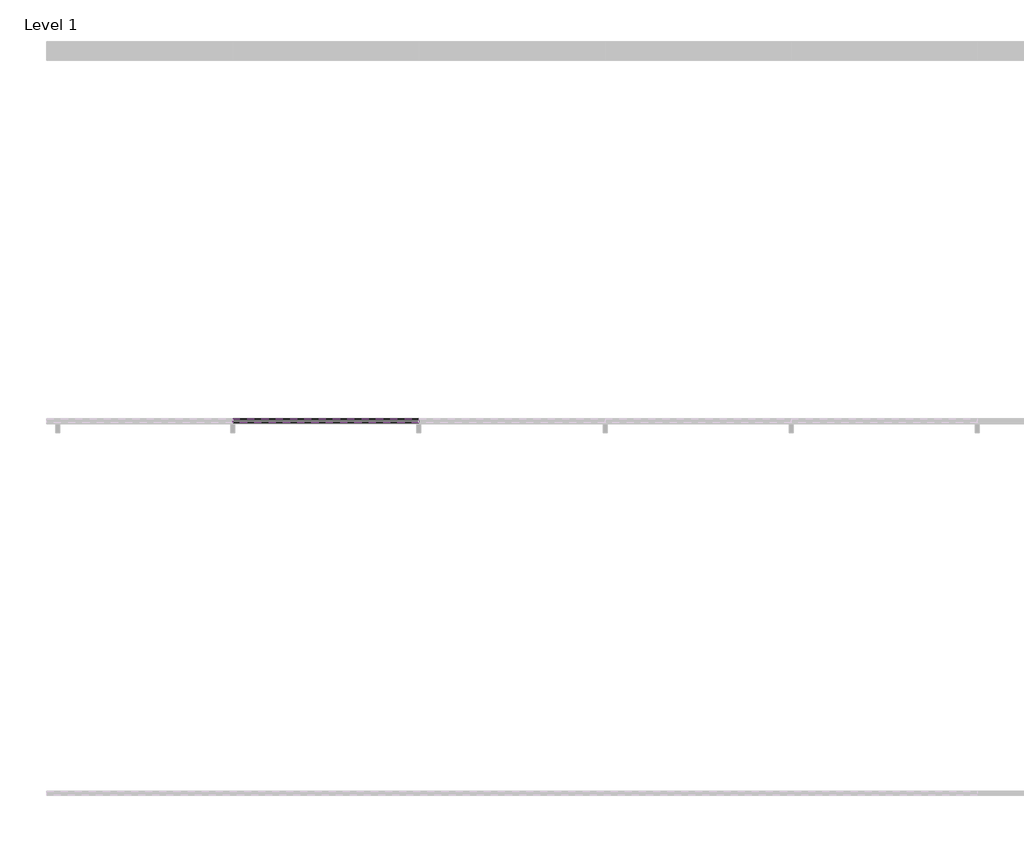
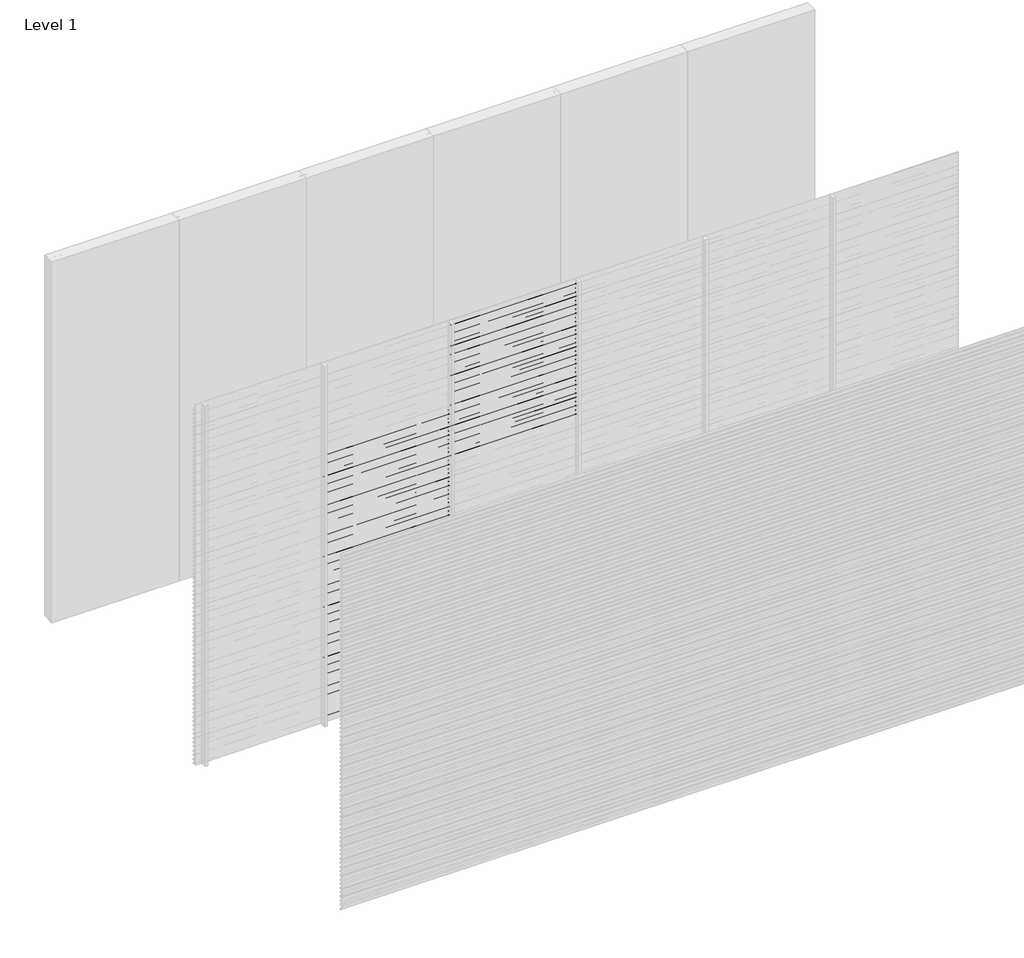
# One storey, part 16 of 25: 97 proxies.
"""IFC4 building model written with IfcOpenShell, lengths in millimetres."""

from ifc_helpers import new_model, si_unit, frame, origin, place, context, project, spatial, polyline, outline, extrude, element, save

model = new_model("IFC4")

# Units and contexts
model_context = context("Model", 3, world=origin())
ifc_project = project(units=[si_unit("LENGTHUNIT", "METRE", prefix="MILLI")], contexts=[model_context])

# Site, building, storey
site = spatial("IfcSite", under=ifc_project)
building = spatial("IfcBuilding", under=site)
storey = spatial("IfcBuildingStorey", under=building, Name="Level 1", Elevation=0.0)

# Proxies
placement = place(None, origin())
element("IfcBuildingElementProxy", 1, Name="Wall Sweeps", at=placement, inside=storey, context=model_context, shape_type="SweptSolid", body=[
    extrude(outline(polyline([(-5995.0, 2275.0), (-5995.0, 2263.942893), (-5976.0, 2248.0), (-5976.0, 2235.0), (-5997.0, 2252.6210923), (-5997.0, 2275.0), (-5995.0, 2275.0)])), frame((1000.0, 0.0, 0.0), z_axis=(1.0, 0.0, 0.0), x_axis=(0.0, 1.0, 0.0)), (0.0, 0.0, 1.0), 1000.0),
])
element("IfcBuildingElementProxy", 2, Name="Wall Sweeps", at=placement, inside=storey, context=model_context, shape_type="SweptSolid", body=[
    extrude(outline(polyline([(-5995.0, 2240.0), (-5995.0, 2228.942893), (-5976.0, 2213.0), (-5976.0, 2200.0), (-5997.0, 2217.6210923), (-5997.0, 2240.0), (-5995.0, 2240.0)])), frame((1000.0, 0.0, 0.0), z_axis=(1.0, 0.0, 0.0), x_axis=(0.0, 1.0, 0.0)), (0.0, 0.0, 1.0), 1000.0),
])
element("IfcBuildingElementProxy", 3, Name="Wall Sweeps", at=placement, inside=storey, context=model_context, shape_type="SweptSolid", body=[
    extrude(outline(polyline([(-5995.0, 2205.0), (-5995.0, 2193.942893), (-5976.0, 2178.0), (-5976.0, 2165.0), (-5997.0, 2182.6210923), (-5997.0, 2205.0), (-5995.0, 2205.0)])), frame((1000.0, 0.0, 0.0), z_axis=(1.0, 0.0, 0.0), x_axis=(0.0, 1.0, 0.0)), (0.0, 0.0, 1.0), 1000.0),
])
element("IfcBuildingElementProxy", 4, Name="Wall Sweeps", at=placement, inside=storey, context=model_context, shape_type="SweptSolid", body=[
    extrude(outline(polyline([(-5995.0, 2170.0), (-5995.0, 2158.942893), (-5976.0, 2143.0), (-5976.0, 2130.0), (-5997.0, 2147.6210923), (-5997.0, 2170.0), (-5995.0, 2170.0)])), frame((1000.0, 0.0, 0.0), z_axis=(1.0, 0.0, 0.0), x_axis=(0.0, 1.0, 0.0)), (0.0, 0.0, 1.0), 1000.0),
])
element("IfcBuildingElementProxy", 5, Name="Wall Sweeps", at=placement, inside=storey, context=model_context, shape_type="SweptSolid", body=[
    extrude(outline(polyline([(-5995.0, 2135.0), (-5995.0, 2123.942893), (-5976.0, 2108.0), (-5976.0, 2095.0), (-5997.0, 2112.6210923), (-5997.0, 2135.0), (-5995.0, 2135.0)])), frame((1000.0, 0.0, 0.0), z_axis=(1.0, 0.0, 0.0), x_axis=(0.0, 1.0, 0.0)), (0.0, 0.0, 1.0), 1000.0),
])
element("IfcBuildingElementProxy", 6, Name="Wall Sweeps", at=placement, inside=storey, context=model_context, shape_type="SweptSolid", body=[
    extrude(outline(polyline([(-5995.0, 2100.0), (-5995.0, 2088.942893), (-5976.0, 2073.0), (-5976.0, 2060.0), (-5997.0, 2077.6210923), (-5997.0, 2100.0), (-5995.0, 2100.0)])), frame((1000.0, 0.0, 0.0), z_axis=(1.0, 0.0, 0.0), x_axis=(0.0, 1.0, 0.0)), (0.0, 0.0, 1.0), 1000.0),
])
element("IfcBuildingElementProxy", 7, Name="Wall Sweeps", at=placement, inside=storey, context=model_context, shape_type="SweptSolid", body=[
    extrude(outline(polyline([(-5995.0, 2065.0), (-5995.0, 2053.942893), (-5976.0, 2038.0), (-5976.0, 2025.0), (-5997.0, 2042.6210923), (-5997.0, 2065.0), (-5995.0, 2065.0)])), frame((1000.0, 0.0, 0.0), z_axis=(1.0, 0.0, 0.0), x_axis=(0.0, 1.0, 0.0)), (0.0, 0.0, 1.0), 1000.0),
])
element("IfcBuildingElementProxy", 8, Name="Wall Sweeps", at=placement, inside=storey, context=model_context, shape_type="SweptSolid", body=[
    extrude(outline(polyline([(-5995.0, 2030.0), (-5995.0, 2018.942893), (-5976.0, 2003.0), (-5976.0, 1990.0), (-5997.0, 2007.6210923), (-5997.0, 2030.0), (-5995.0, 2030.0)])), frame((1000.0, 0.0, 0.0), z_axis=(1.0, 0.0, 0.0), x_axis=(0.0, 1.0, 0.0)), (0.0, 0.0, 1.0), 1000.0),
])
element("IfcBuildingElementProxy", 9, Name="Wall Sweeps", at=placement, inside=storey, context=model_context, shape_type="SweptSolid", body=[
    extrude(outline(polyline([(-5995.0, 1995.0), (-5995.0, 1983.942893), (-5976.0, 1968.0), (-5976.0, 1955.0), (-5997.0, 1972.6210923), (-5997.0, 1995.0), (-5995.0, 1995.0)])), frame((1000.0, 0.0, 0.0), z_axis=(1.0, 0.0, 0.0), x_axis=(0.0, 1.0, 0.0)), (0.0, 0.0, 1.0), 1000.0),
])
element("IfcBuildingElementProxy", 10, Name="Wall Sweeps", at=placement, inside=storey, context=model_context, shape_type="SweptSolid", body=[
    extrude(outline(polyline([(-5995.0, 1960.0), (-5995.0, 1948.942893), (-5976.0, 1933.0), (-5976.0, 1920.0), (-5997.0, 1937.6210923), (-5997.0, 1960.0), (-5995.0, 1960.0)])), frame((1000.0, 0.0, 0.0), z_axis=(1.0, 0.0, 0.0), x_axis=(0.0, 1.0, 0.0)), (0.0, 0.0, 1.0), 1000.0),
])
element("IfcBuildingElementProxy", 11, Name="Wall Sweeps", at=placement, inside=storey, context=model_context, shape_type="SweptSolid", body=[
    extrude(outline(polyline([(-5995.0, 1925.0), (-5995.0, 1913.942893), (-5976.0, 1898.0), (-5976.0, 1885.0), (-5997.0, 1902.6210923), (-5997.0, 1925.0), (-5995.0, 1925.0)])), frame((1000.0, 0.0, 0.0), z_axis=(1.0, 0.0, 0.0), x_axis=(0.0, 1.0, 0.0)), (0.0, 0.0, 1.0), 1000.0),
])
element("IfcBuildingElementProxy", 12, Name="Wall Sweeps", at=placement, inside=storey, context=model_context, shape_type="SweptSolid", body=[
    extrude(outline(polyline([(-5995.0, 1890.0), (-5995.0, 1878.942893), (-5976.0, 1863.0), (-5976.0, 1850.0), (-5997.0, 1867.6210923), (-5997.0, 1890.0), (-5995.0, 1890.0)])), frame((1000.0, 0.0, 0.0), z_axis=(1.0, 0.0, 0.0), x_axis=(0.0, 1.0, 0.0)), (0.0, 0.0, 1.0), 1000.0),
])
element("IfcBuildingElementProxy", 13, Name="Wall Sweeps", at=placement, inside=storey, context=model_context, shape_type="SweptSolid", body=[
    extrude(outline(polyline([(-5995.0, 1855.0), (-5995.0, 1843.942893), (-5976.0, 1828.0), (-5976.0, 1815.0), (-5997.0, 1832.6210923), (-5997.0, 1855.0), (-5995.0, 1855.0)])), frame((1000.0, 0.0, 0.0), z_axis=(1.0, 0.0, 0.0), x_axis=(0.0, 1.0, 0.0)), (0.0, 0.0, 1.0), 1000.0),
])
element("IfcBuildingElementProxy", 14, Name="Wall Sweeps", at=placement, inside=storey, context=model_context, shape_type="SweptSolid", body=[
    extrude(outline(polyline([(-5995.0, 1820.0), (-5995.0, 1808.942893), (-5976.0, 1793.0), (-5976.0, 1780.0), (-5997.0, 1797.6210923), (-5997.0, 1820.0), (-5995.0, 1820.0)])), frame((1000.0, 0.0, 0.0), z_axis=(1.0, 0.0, 0.0), x_axis=(0.0, 1.0, 0.0)), (0.0, 0.0, 1.0), 1000.0),
])
element("IfcBuildingElementProxy", 15, Name="Wall Sweeps", at=placement, inside=storey, context=model_context, shape_type="SweptSolid", body=[
    extrude(outline(polyline([(-5995.0, 1785.0), (-5995.0, 1773.942893), (-5976.0, 1758.0), (-5976.0, 1745.0), (-5997.0, 1762.6210923), (-5997.0, 1785.0), (-5995.0, 1785.0)])), frame((1000.0, 0.0, 0.0), z_axis=(1.0, 0.0, 0.0), x_axis=(0.0, 1.0, 0.0)), (0.0, 0.0, 1.0), 1000.0),
])
element("IfcBuildingElementProxy", 16, Name="Wall Sweeps", at=placement, inside=storey, context=model_context, shape_type="SweptSolid", body=[
    extrude(outline(polyline([(-5995.0, 1750.0), (-5995.0, 1738.942893), (-5976.0, 1723.0), (-5976.0, 1710.0), (-5997.0, 1727.6210923), (-5997.0, 1750.0), (-5995.0, 1750.0)])), frame((1000.0, 0.0, 0.0), z_axis=(1.0, 0.0, 0.0), x_axis=(0.0, 1.0, 0.0)), (0.0, 0.0, 1.0), 1000.0),
])
element("IfcBuildingElementProxy", 17, Name="Wall Sweeps", at=placement, inside=storey, context=model_context, shape_type="SweptSolid", body=[
    extrude(outline(polyline([(-5995.0, 1715.0), (-5995.0, 1703.942893), (-5976.0, 1688.0), (-5976.0, 1675.0), (-5997.0, 1692.6210923), (-5997.0, 1715.0), (-5995.0, 1715.0)])), frame((1000.0, 0.0, 0.0), z_axis=(1.0, 0.0, 0.0), x_axis=(0.0, 1.0, 0.0)), (0.0, 0.0, 1.0), 1000.0),
])
element("IfcBuildingElementProxy", 18, Name="Wall Sweeps", at=placement, inside=storey, context=model_context, shape_type="SweptSolid", body=[
    extrude(outline(polyline([(-5995.0, 1680.0), (-5995.0, 1668.942893), (-5976.0, 1653.0), (-5976.0, 1640.0), (-5997.0, 1657.6210923), (-5997.0, 1680.0), (-5995.0, 1680.0)])), frame((1000.0, 0.0, 0.0), z_axis=(1.0, 0.0, 0.0), x_axis=(0.0, 1.0, 0.0)), (0.0, 0.0, 1.0), 1000.0),
])
element("IfcBuildingElementProxy", 19, Name="Wall Sweeps", at=placement, inside=storey, context=model_context, shape_type="SweptSolid", body=[
    extrude(outline(polyline([(-5995.0, 1645.0), (-5995.0, 1633.942893), (-5976.0, 1618.0), (-5976.0, 1605.0), (-5997.0, 1622.6210923), (-5997.0, 1645.0), (-5995.0, 1645.0)])), frame((1000.0, 0.0, 0.0), z_axis=(1.0, 0.0, 0.0), x_axis=(0.0, 1.0, 0.0)), (0.0, 0.0, 1.0), 1000.0),
])
element("IfcBuildingElementProxy", 20, Name="Wall Sweeps", at=placement, inside=storey, context=model_context, shape_type="SweptSolid", body=[
    extrude(outline(polyline([(-5995.0, 1610.0), (-5995.0, 1598.942893), (-5976.0, 1583.0), (-5976.0, 1570.0), (-5997.0, 1587.6210923), (-5997.0, 1610.0), (-5995.0, 1610.0)])), frame((1000.0, 0.0, 0.0), z_axis=(1.0, 0.0, 0.0), x_axis=(0.0, 1.0, 0.0)), (0.0, 0.0, 1.0), 1000.0),
])
element("IfcBuildingElementProxy", 21, Name="Wall Sweeps", at=placement, inside=storey, context=model_context, shape_type="SweptSolid", body=[
    extrude(outline(polyline([(-5995.0, 1575.0), (-5995.0, 1563.942893), (-5976.0, 1548.0), (-5976.0, 1535.0), (-5997.0, 1552.6210923), (-5997.0, 1575.0), (-5995.0, 1575.0)])), frame((1000.0, 0.0, 0.0), z_axis=(1.0, 0.0, 0.0), x_axis=(0.0, 1.0, 0.0)), (0.0, 0.0, 1.0), 1000.0),
])
element("IfcBuildingElementProxy", 22, Name="Wall Sweeps", at=placement, inside=storey, context=model_context, shape_type="SweptSolid", body=[
    extrude(outline(polyline([(-5995.0, 1540.0), (-5995.0, 1528.942893), (-5976.0, 1513.0), (-5976.0, 1500.0), (-5997.0, 1517.6210923), (-5997.0, 1540.0), (-5995.0, 1540.0)])), frame((1000.0, 0.0, 0.0), z_axis=(1.0, 0.0, 0.0), x_axis=(0.0, 1.0, 0.0)), (0.0, 0.0, 1.0), 1000.0),
])
element("IfcBuildingElementProxy", 23, Name="Wall Sweeps", at=placement, inside=storey, context=model_context, shape_type="SweptSolid", body=[
    extrude(outline(polyline([(-5995.0, 1505.0), (-5995.0, 1493.942893), (-5976.0, 1478.0), (-5976.0, 1465.0), (-5997.0, 1482.6210923), (-5997.0, 1505.0), (-5995.0, 1505.0)])), frame((1000.0, 0.0, 0.0), z_axis=(1.0, 0.0, 0.0), x_axis=(0.0, 1.0, 0.0)), (0.0, 0.0, 1.0), 1000.0),
])
element("IfcBuildingElementProxy", 24, Name="Wall Sweeps", at=placement, inside=storey, context=model_context, shape_type="SweptSolid", body=[
    extrude(outline(polyline([(-5995.0, 1470.0), (-5995.0, 1458.942893), (-5976.0, 1443.0), (-5976.0, 1430.0), (-5997.0, 1447.6210923), (-5997.0, 1470.0), (-5995.0, 1470.0)])), frame((1000.0, 0.0, 0.0), z_axis=(1.0, 0.0, 0.0), x_axis=(0.0, 1.0, 0.0)), (0.0, 0.0, 1.0), 1000.0),
])
element("IfcBuildingElementProxy", 25, Name="Wall Sweeps", at=placement, inside=storey, context=model_context, shape_type="SweptSolid", body=[
    extrude(outline(polyline([(-5995.0, 1435.0), (-5995.0, 1423.942893), (-5976.0, 1408.0), (-5976.0, 1395.0), (-5997.0, 1412.6210923), (-5997.0, 1435.0), (-5995.0, 1435.0)])), frame((1000.0, 0.0, 0.0), z_axis=(1.0, 0.0, 0.0), x_axis=(0.0, 1.0, 0.0)), (0.0, 0.0, 1.0), 1000.0),
])
element("IfcBuildingElementProxy", 26, Name="Wall Sweeps", at=placement, inside=storey, context=model_context, shape_type="SweptSolid", body=[
    extrude(outline(polyline([(-5995.0, 1400.0), (-5995.0, 1388.942893), (-5976.0, 1373.0), (-5976.0, 1360.0), (-5997.0, 1377.6210923), (-5997.0, 1400.0), (-5995.0, 1400.0)])), frame((1000.0, 0.0, 0.0), z_axis=(1.0, 0.0, 0.0), x_axis=(0.0, 1.0, 0.0)), (0.0, 0.0, 1.0), 1000.0),
])
element("IfcBuildingElementProxy", 27, Name="Wall Sweeps", at=placement, inside=storey, context=model_context, shape_type="SweptSolid", body=[
    extrude(outline(polyline([(-5995.0, 1365.0), (-5995.0, 1353.942893), (-5976.0, 1338.0), (-5976.0, 1325.0), (-5997.0, 1342.6210923), (-5997.0, 1365.0), (-5995.0, 1365.0)])), frame((1000.0, 0.0, 0.0), z_axis=(1.0, 0.0, 0.0), x_axis=(0.0, 1.0, 0.0)), (0.0, 0.0, 1.0), 1000.0),
])
element("IfcBuildingElementProxy", 28, Name="Wall Sweeps", at=placement, inside=storey, context=model_context, shape_type="SweptSolid", body=[
    extrude(outline(polyline([(-5995.0, 1330.0), (-5995.0, 1318.942893), (-5976.0, 1303.0), (-5976.0, 1290.0), (-5997.0, 1307.6210923), (-5997.0, 1330.0), (-5995.0, 1330.0)])), frame((1000.0, 0.0, 0.0), z_axis=(1.0, 0.0, 0.0), x_axis=(0.0, 1.0, 0.0)), (0.0, 0.0, 1.0), 1000.0),
])
element("IfcBuildingElementProxy", 29, Name="Wall Sweeps", at=placement, inside=storey, context=model_context, shape_type="SweptSolid", body=[
    extrude(outline(polyline([(-5995.0, 1295.0), (-5995.0, 1283.942893), (-5976.0, 1268.0), (-5976.0, 1255.0), (-5997.0, 1272.6210923), (-5997.0, 1295.0), (-5995.0, 1295.0)])), frame((1000.0, 0.0, 0.0), z_axis=(1.0, 0.0, 0.0), x_axis=(0.0, 1.0, 0.0)), (0.0, 0.0, 1.0), 1000.0),
])
element("IfcBuildingElementProxy", 30, Name="Wall Sweeps", at=placement, inside=storey, context=model_context, shape_type="SweptSolid", body=[
    extrude(outline(polyline([(-5995.0, 1260.0), (-5995.0, 1248.942893), (-5976.0, 1233.0), (-5976.0, 1220.0), (-5997.0, 1237.6210923), (-5997.0, 1260.0), (-5995.0, 1260.0)])), frame((1000.0, 0.0, 0.0), z_axis=(1.0, 0.0, 0.0), x_axis=(0.0, 1.0, 0.0)), (0.0, 0.0, 1.0), 1000.0),
])
element("IfcBuildingElementProxy", 31, Name="Wall Sweeps", at=placement, inside=storey, context=model_context, shape_type="SweptSolid", body=[
    extrude(outline(polyline([(-5995.0, 1225.0), (-5995.0, 1213.942893), (-5976.0, 1198.0), (-5976.0, 1185.0), (-5997.0, 1202.6210923), (-5997.0, 1225.0), (-5995.0, 1225.0)])), frame((1000.0, 0.0, 0.0), z_axis=(1.0, 0.0, 0.0), x_axis=(0.0, 1.0, 0.0)), (0.0, 0.0, 1.0), 1000.0),
])
element("IfcBuildingElementProxy", 32, Name="Wall Sweeps", at=placement, inside=storey, context=model_context, shape_type="SweptSolid", body=[
    extrude(outline(polyline([(-5995.0, 1190.0), (-5995.0, 1178.942893), (-5976.0, 1163.0), (-5976.0, 1150.0), (-5997.0, 1167.6210923), (-5997.0, 1190.0), (-5995.0, 1190.0)])), frame((1000.0, 0.0, 0.0), z_axis=(1.0, 0.0, 0.0), x_axis=(0.0, 1.0, 0.0)), (0.0, 0.0, 1.0), 1000.0),
])
element("IfcBuildingElementProxy", 33, Name="Wall Sweeps", at=placement, inside=storey, context=model_context, shape_type="SweptSolid", body=[
    extrude(outline(polyline([(-5995.0, 1155.0), (-5995.0, 1143.942893), (-5976.0, 1128.0), (-5976.0, 1115.0), (-5997.0, 1132.6210923), (-5997.0, 1155.0), (-5995.0, 1155.0)])), frame((1000.0, 0.0, 0.0), z_axis=(1.0, 0.0, 0.0), x_axis=(0.0, 1.0, 0.0)), (0.0, 0.0, 1.0), 1000.0),
])
element("IfcBuildingElementProxy", 34, Name="Wall Sweeps", at=placement, inside=storey, context=model_context, shape_type="SweptSolid", body=[
    extrude(outline(polyline([(-5995.0, 1120.0), (-5995.0, 1108.942893), (-5976.0, 1093.0), (-5976.0, 1080.0), (-5997.0, 1097.6210923), (-5997.0, 1120.0), (-5995.0, 1120.0)])), frame((1000.0, 0.0, 0.0), z_axis=(1.0, 0.0, 0.0), x_axis=(0.0, 1.0, 0.0)), (0.0, 0.0, 1.0), 1000.0),
])
element("IfcBuildingElementProxy", 35, Name="Wall Sweeps", at=placement, inside=storey, context=model_context, shape_type="SweptSolid", body=[
    extrude(outline(polyline([(-5995.0, 1085.0), (-5995.0, 1073.942893), (-5976.0, 1058.0), (-5976.0, 1045.0), (-5997.0, 1062.6210923), (-5997.0, 1085.0), (-5995.0, 1085.0)])), frame((1000.0, 0.0, 0.0), z_axis=(1.0, 0.0, 0.0), x_axis=(0.0, 1.0, 0.0)), (0.0, 0.0, 1.0), 1000.0),
])
element("IfcBuildingElementProxy", 36, Name="Wall Sweeps", at=placement, inside=storey, context=model_context, shape_type="SweptSolid", body=[
    extrude(outline(polyline([(-5995.0, 1050.0), (-5995.0, 1038.942893), (-5976.0, 1023.0), (-5976.0, 1010.0), (-5997.0, 1027.6210923), (-5997.0, 1050.0), (-5995.0, 1050.0)])), frame((1000.0, 0.0, 0.0), z_axis=(1.0, 0.0, 0.0), x_axis=(0.0, 1.0, 0.0)), (0.0, 0.0, 1.0), 1000.0),
])
element("IfcBuildingElementProxy", 37, Name="Wall Sweeps", at=placement, inside=storey, context=model_context, shape_type="SweptSolid", body=[
    extrude(outline(polyline([(-5995.0, 1015.0), (-5995.0, 1003.942893), (-5976.0, 988.0), (-5976.0, 975.0), (-5997.0, 992.6210923), (-5997.0, 1015.0), (-5995.0, 1015.0)])), frame((1000.0, 0.0, 0.0), z_axis=(1.0, 0.0, 0.0), x_axis=(0.0, 1.0, 0.0)), (0.0, 0.0, 1.0), 1000.0),
])
element("IfcBuildingElementProxy", 38, Name="Wall Sweeps", at=placement, inside=storey, context=model_context, shape_type="SweptSolid", body=[
    extrude(outline(polyline([(-5995.0, 980.0), (-5995.0, 968.942893), (-5976.0, 953.0), (-5976.0, 940.0), (-5997.0, 957.6210923), (-5997.0, 980.0), (-5995.0, 980.0)])), frame((1000.0, 0.0, 0.0), z_axis=(1.0, 0.0, 0.0), x_axis=(0.0, 1.0, 0.0)), (0.0, 0.0, 1.0), 1000.0),
])
element("IfcBuildingElementProxy", 39, Name="Wall Sweeps", at=placement, inside=storey, context=model_context, shape_type="SweptSolid", body=[
    extrude(outline(polyline([(-5995.0, 945.0), (-5995.0, 933.942893), (-5976.0, 918.0), (-5976.0, 905.0), (-5997.0, 922.6210923), (-5997.0, 945.0), (-5995.0, 945.0)])), frame((1000.0, 0.0, 0.0), z_axis=(1.0, 0.0, 0.0), x_axis=(0.0, 1.0, 0.0)), (0.0, 0.0, 1.0), 1000.0),
])
element("IfcBuildingElementProxy", 40, Name="Wall Sweeps", at=placement, inside=storey, context=model_context, shape_type="SweptSolid", body=[
    extrude(outline(polyline([(-5995.0, 910.0), (-5995.0, 898.942893), (-5976.0, 883.0), (-5976.0, 870.0), (-5997.0, 887.6210923), (-5997.0, 910.0), (-5995.0, 910.0)])), frame((1000.0, 0.0, 0.0), z_axis=(1.0, 0.0, 0.0), x_axis=(0.0, 1.0, 0.0)), (0.0, 0.0, 1.0), 1000.0),
])
element("IfcBuildingElementProxy", 41, Name="Wall Sweeps", at=placement, inside=storey, context=model_context, shape_type="SweptSolid", body=[
    extrude(outline(polyline([(-5995.0, 875.0), (-5995.0, 863.942893), (-5976.0, 848.0), (-5976.0, 835.0), (-5997.0, 852.6210923), (-5997.0, 875.0), (-5995.0, 875.0)])), frame((1000.0, 0.0, 0.0), z_axis=(1.0, 0.0, 0.0), x_axis=(0.0, 1.0, 0.0)), (0.0, 0.0, 1.0), 1000.0),
])
element("IfcBuildingElementProxy", 42, Name="Wall Sweeps", at=placement, inside=storey, context=model_context, shape_type="SweptSolid", body=[
    extrude(outline(polyline([(-5995.0, 840.0), (-5995.0, 828.942893), (-5976.0, 813.0), (-5976.0, 800.0), (-5997.0, 817.6210923), (-5997.0, 840.0), (-5995.0, 840.0)])), frame((1000.0, 0.0, 0.0), z_axis=(1.0, 0.0, 0.0), x_axis=(0.0, 1.0, 0.0)), (0.0, 0.0, 1.0), 1000.0),
])
element("IfcBuildingElementProxy", 43, Name="Wall Sweeps", at=placement, inside=storey, context=model_context, shape_type="SweptSolid", body=[
    extrude(outline(polyline([(-5995.0, 805.0), (-5995.0, 793.942893), (-5976.0, 778.0), (-5976.0, 765.0), (-5997.0, 782.6210923), (-5997.0, 805.0), (-5995.0, 805.0)])), frame((1000.0, 0.0, 0.0), z_axis=(1.0, 0.0, 0.0), x_axis=(0.0, 1.0, 0.0)), (0.0, 0.0, 1.0), 1000.0),
])
element("IfcBuildingElementProxy", 44, Name="Wall Sweeps", at=placement, inside=storey, context=model_context, shape_type="SweptSolid", body=[
    extrude(outline(polyline([(-5995.0, 770.0), (-5995.0, 758.942893), (-5976.0, 743.0), (-5976.0, 730.0), (-5997.0, 747.6210923), (-5997.0, 770.0), (-5995.0, 770.0)])), frame((1000.0, 0.0, 0.0), z_axis=(1.0, 0.0, 0.0), x_axis=(0.0, 1.0, 0.0)), (0.0, 0.0, 1.0), 1000.0),
])
element("IfcBuildingElementProxy", 45, Name="Wall Sweeps", at=placement, inside=storey, context=model_context, shape_type="SweptSolid", body=[
    extrude(outline(polyline([(-5995.0, 735.0), (-5995.0, 723.942893), (-5976.0, 708.0), (-5976.0, 695.0), (-5997.0, 712.6210923), (-5997.0, 735.0), (-5995.0, 735.0)])), frame((1000.0, 0.0, 0.0), z_axis=(1.0, 0.0, 0.0), x_axis=(0.0, 1.0, 0.0)), (0.0, 0.0, 1.0), 1000.0),
])
element("IfcBuildingElementProxy", 46, Name="Wall Sweeps", at=placement, inside=storey, context=model_context, shape_type="SweptSolid", body=[
    extrude(outline(polyline([(-5995.0, 700.0), (-5995.0, 688.942893), (-5976.0, 673.0), (-5976.0, 660.0), (-5997.0, 677.6210923), (-5997.0, 700.0), (-5995.0, 700.0)])), frame((1000.0, 0.0, 0.0), z_axis=(1.0, 0.0, 0.0), x_axis=(0.0, 1.0, 0.0)), (0.0, 0.0, 1.0), 1000.0),
])
element("IfcBuildingElementProxy", 47, Name="Wall Sweeps", at=placement, inside=storey, context=model_context, shape_type="SweptSolid", body=[
    extrude(outline(polyline([(-5995.0, 665.0), (-5995.0, 653.942893), (-5976.0, 638.0), (-5976.0, 625.0), (-5997.0, 642.6210923), (-5997.0, 665.0), (-5995.0, 665.0)])), frame((1000.0, 0.0, 0.0), z_axis=(1.0, 0.0, 0.0), x_axis=(0.0, 1.0, 0.0)), (0.0, 0.0, 1.0), 1000.0),
])
element("IfcBuildingElementProxy", 48, Name="Wall Sweeps", at=placement, inside=storey, context=model_context, shape_type="SweptSolid", body=[
    extrude(outline(polyline([(-5995.0, 630.0), (-5995.0, 618.942893), (-5976.0, 603.0), (-5976.0, 590.0), (-5997.0, 607.6210923), (-5997.0, 630.0), (-5995.0, 630.0)])), frame((1000.0, 0.0, 0.0), z_axis=(1.0, 0.0, 0.0), x_axis=(0.0, 1.0, 0.0)), (0.0, 0.0, 1.0), 1000.0),
])
element("IfcBuildingElementProxy", 49, Name="Wall Sweeps", at=placement, inside=storey, context=model_context, shape_type="SweptSolid", body=[
    extrude(outline(polyline([(-5995.0, 595.0), (-5995.0, 583.942893), (-5976.0, 568.0), (-5976.0, 555.0), (-5997.0, 572.6210923), (-5997.0, 595.0), (-5995.0, 595.0)])), frame((1000.0, 0.0, 0.0), z_axis=(1.0, 0.0, 0.0), x_axis=(0.0, 1.0, 0.0)), (0.0, 0.0, 1.0), 1000.0),
])
element("IfcBuildingElementProxy", 50, Name="Wall Sweeps", at=placement, inside=storey, context=model_context, shape_type="SweptSolid", body=[
    extrude(outline(polyline([(-5995.0, 560.0), (-5995.0, 548.942893), (-5976.0, 533.0), (-5976.0, 520.0), (-5997.0, 537.6210923), (-5997.0, 560.0), (-5995.0, 560.0)])), frame((1000.0, 0.0, 0.0), z_axis=(1.0, 0.0, 0.0), x_axis=(0.0, 1.0, 0.0)), (0.0, 0.0, 1.0), 1000.0),
])
element("IfcBuildingElementProxy", 51, Name="Wall Sweeps", at=placement, inside=storey, context=model_context, shape_type="SweptSolid", body=[
    extrude(outline(polyline([(-5995.0, 525.0), (-5995.0, 513.942893), (-5976.0, 498.0), (-5976.0, 485.0), (-5997.0, 502.6210923), (-5997.0, 525.0), (-5995.0, 525.0)])), frame((1000.0, 0.0, 0.0), z_axis=(1.0, 0.0, 0.0), x_axis=(0.0, 1.0, 0.0)), (0.0, 0.0, 1.0), 1000.0),
])
element("IfcBuildingElementProxy", 52, Name="Wall Sweeps", at=placement, inside=storey, context=model_context, shape_type="SweptSolid", body=[
    extrude(outline(polyline([(-5995.0, 490.0), (-5995.0, 478.942893), (-5976.0, 463.0), (-5976.0, 450.0), (-5997.0, 467.6210923), (-5997.0, 490.0), (-5995.0, 490.0)])), frame((1000.0, 0.0, 0.0), z_axis=(1.0, 0.0, 0.0), x_axis=(0.0, 1.0, 0.0)), (0.0, 0.0, 1.0), 1000.0),
])
element("IfcBuildingElementProxy", 53, Name="Wall Sweeps", at=placement, inside=storey, context=model_context, shape_type="SweptSolid", body=[
    extrude(outline(polyline([(-5995.0, 455.0), (-5995.0, 443.942893), (-5976.0, 428.0), (-5976.0, 415.0), (-5997.0, 432.6210923), (-5997.0, 455.0), (-5995.0, 455.0)])), frame((1000.0, 0.0, 0.0), z_axis=(1.0, 0.0, 0.0), x_axis=(0.0, 1.0, 0.0)), (0.0, 0.0, 1.0), 1000.0),
])
element("IfcBuildingElementProxy", 54, Name="Wall Sweeps", at=placement, inside=storey, context=model_context, shape_type="SweptSolid", body=[
    extrude(outline(polyline([(-5995.0, 420.0), (-5995.0, 408.942893), (-5976.0, 393.0), (-5976.0, 380.0), (-5997.0, 397.6210923), (-5997.0, 420.0), (-5995.0, 420.0)])), frame((1000.0, 0.0, 0.0), z_axis=(1.0, 0.0, 0.0), x_axis=(0.0, 1.0, 0.0)), (0.0, 0.0, 1.0), 1000.0),
])
element("IfcBuildingElementProxy", 55, Name="Wall Sweeps", at=placement, inside=storey, context=model_context, shape_type="SweptSolid", body=[
    extrude(outline(polyline([(-5995.0, 385.0), (-5995.0, 373.942893), (-5976.0, 358.0), (-5976.0, 345.0), (-5997.0, 362.6210923), (-5997.0, 385.0), (-5995.0, 385.0)])), frame((1000.0, 0.0, 0.0), z_axis=(1.0, 0.0, 0.0), x_axis=(0.0, 1.0, 0.0)), (0.0, 0.0, 1.0), 1000.0),
])
element("IfcBuildingElementProxy", 56, Name="Wall Sweeps", at=placement, inside=storey, context=model_context, shape_type="SweptSolid", body=[
    extrude(outline(polyline([(-5995.0, 350.0), (-5995.0, 338.942893), (-5976.0, 323.0), (-5976.0, 310.0), (-5997.0, 327.6210923), (-5997.0, 350.0), (-5995.0, 350.0)])), frame((1000.0, 0.0, 0.0), z_axis=(1.0, 0.0, 0.0), x_axis=(0.0, 1.0, 0.0)), (0.0, 0.0, 1.0), 1000.0),
])
element("IfcBuildingElementProxy", 57, Name="Wall Sweeps", at=placement, inside=storey, context=model_context, shape_type="SweptSolid", body=[
    extrude(outline(polyline([(-5995.0, 315.0), (-5995.0, 303.942893), (-5976.0, 288.0), (-5976.0, 275.0), (-5997.0, 292.6210923), (-5997.0, 315.0), (-5995.0, 315.0)])), frame((1000.0, 0.0, 0.0), z_axis=(1.0, 0.0, 0.0), x_axis=(0.0, 1.0, 0.0)), (0.0, 0.0, 1.0), 1000.0),
])
element("IfcBuildingElementProxy", 58, Name="Wall Sweeps", at=placement, inside=storey, context=model_context, shape_type="SweptSolid", body=[
    extrude(outline(polyline([(-5995.0, 280.0), (-5995.0, 268.942893), (-5976.0, 253.0), (-5976.0, 240.0), (-5997.0, 257.6210923), (-5997.0, 280.0), (-5995.0, 280.0)])), frame((1000.0, 0.0, 0.0), z_axis=(1.0, 0.0, 0.0), x_axis=(0.0, 1.0, 0.0)), (0.0, 0.0, 1.0), 1000.0),
])
element("IfcBuildingElementProxy", 59, Name="Wall Sweeps", at=placement, inside=storey, context=model_context, shape_type="SweptSolid", body=[
    extrude(outline(polyline([(-5995.0, 245.0), (-5995.0, 233.942893), (-5976.0, 218.0), (-5976.0, 205.0), (-5997.0, 222.6210923), (-5997.0, 245.0), (-5995.0, 245.0)])), frame((1000.0, 0.0, 0.0), z_axis=(1.0, 0.0, 0.0), x_axis=(0.0, 1.0, 0.0)), (0.0, 0.0, 1.0), 1000.0),
])
element("IfcBuildingElementProxy", 60, Name="Wall Sweeps", at=placement, inside=storey, context=model_context, shape_type="SweptSolid", body=[
    extrude(outline(polyline([(-5995.0, 210.0), (-5995.0, 198.942893), (-5976.0, 183.0), (-5976.0, 170.0), (-5997.0, 187.6210923), (-5997.0, 210.0), (-5995.0, 210.0)])), frame((1000.0, 0.0, 0.0), z_axis=(1.0, 0.0, 0.0), x_axis=(0.0, 1.0, 0.0)), (0.0, 0.0, 1.0), 1000.0),
])
element("IfcBuildingElementProxy", 61, Name="Wall Sweeps", at=placement, inside=storey, context=model_context, shape_type="SweptSolid", body=[
    extrude(outline(polyline([(-5995.0, 175.0), (-5995.0, 163.942893), (-5976.0, 148.0), (-5976.0, 135.0), (-5997.0, 152.6210923), (-5997.0, 175.0), (-5995.0, 175.0)])), frame((1000.0, 0.0, 0.0), z_axis=(1.0, 0.0, 0.0), x_axis=(0.0, 1.0, 0.0)), (0.0, 0.0, 1.0), 1000.0),
])
element("IfcBuildingElementProxy", 62, Name="Wall Sweeps", at=placement, inside=storey, context=model_context, shape_type="SweptSolid", body=[
    extrude(outline(polyline([(-5995.0, 140.0), (-5995.0, 128.942893), (-5976.0, 113.0), (-5976.0, 100.0), (-5997.0, 117.6210923), (-5997.0, 140.0), (-5995.0, 140.0)])), frame((1000.0, 0.0, 0.0), z_axis=(1.0, 0.0, 0.0), x_axis=(0.0, 1.0, 0.0)), (0.0, 0.0, 1.0), 1000.0),
])
element("IfcBuildingElementProxy", 63, Name="Wall Sweeps", at=placement, inside=storey, context=model_context, shape_type="SweptSolid", body=[
    extrude(outline(polyline([(-5995.0, 105.0), (-5995.0, 93.942893), (-5976.0, 78.0), (-5976.0, 65.0), (-5997.0, 82.6210923), (-5997.0, 105.0), (-5995.0, 105.0)])), frame((1000.0, 0.0, 0.0), z_axis=(1.0, 0.0, 0.0), x_axis=(0.0, 1.0, 0.0)), (0.0, 0.0, 1.0), 1000.0),
])
element("IfcBuildingElementProxy", 64, Name="Wall Sweeps", at=placement, inside=storey, context=model_context, shape_type="SweptSolid", body=[
    extrude(outline(polyline([(-5995.0, 70.0), (-5995.0, 58.942893), (-5976.0, 43.0), (-5976.0, 30.0), (-5997.0, 47.6210923), (-5997.0, 70.0), (-5995.0, 70.0)])), frame((1000.0, 0.0, 0.0), z_axis=(1.0, 0.0, 0.0), x_axis=(0.0, 1.0, 0.0)), (0.0, 0.0, 1.0), 1000.0),
])
element("IfcBuildingElementProxy", 65, Name="Wall Sweeps", at=placement, inside=storey, context=model_context, shape_type="SweptSolid", body=[
    extrude(outline(polyline([(-5995.0, 35.0), (-5995.0, 23.942893), (-5976.0, 8.0), (-5976.0, -5.0), (-5997.0, 12.6210923), (-5997.0, 35.0), (-5995.0, 35.0)])), frame((1000.0, 0.0, 0.0), z_axis=(1.0, 0.0, 0.0), x_axis=(0.0, 1.0, 0.0)), (0.0, 0.0, 1.0), 1000.0),
])
element("IfcBuildingElementProxy", 66, Name="Wall Sweeps", at=placement, inside=storey, context=model_context, shape_type="SweptSolid", body=[
    extrude(outline(polyline([(-5995.0, 2975.0), (-5995.0, 2963.942893), (-5976.0, 2948.0), (-5976.0, 2935.0), (-5997.0, 2952.6210923), (-5997.0, 2975.0), (-5995.0, 2975.0)])), frame((2000.0, 0.0, 0.0), z_axis=(1.0, 0.0, 0.0), x_axis=(0.0, 1.0, 0.0)), (0.0, 0.0, 1.0), 1000.0),
])
element("IfcBuildingElementProxy", 67, Name="Wall Sweeps", at=placement, inside=storey, context=model_context, shape_type="SweptSolid", body=[
    extrude(outline(polyline([(-5995.0, 2940.0), (-5995.0, 2928.942893), (-5976.0, 2913.0), (-5976.0, 2900.0), (-5997.0, 2917.6210923), (-5997.0, 2940.0), (-5995.0, 2940.0)])), frame((2000.0, 0.0, 0.0), z_axis=(1.0, 0.0, 0.0), x_axis=(0.0, 1.0, 0.0)), (0.0, 0.0, 1.0), 1000.0),
])
element("IfcBuildingElementProxy", 68, Name="Wall Sweeps", at=placement, inside=storey, context=model_context, shape_type="SweptSolid", body=[
    extrude(outline(polyline([(-5995.0, 2905.0), (-5995.0, 2893.942893), (-5976.0, 2878.0), (-5976.0, 2865.0), (-5997.0, 2882.6210923), (-5997.0, 2905.0), (-5995.0, 2905.0)])), frame((2000.0, 0.0, 0.0), z_axis=(1.0, 0.0, 0.0), x_axis=(0.0, 1.0, 0.0)), (0.0, 0.0, 1.0), 1000.0),
])
element("IfcBuildingElementProxy", 69, Name="Wall Sweeps", at=placement, inside=storey, context=model_context, shape_type="SweptSolid", body=[
    extrude(outline(polyline([(-5995.0, 2870.0), (-5995.0, 2858.942893), (-5976.0, 2843.0), (-5976.0, 2830.0), (-5997.0, 2847.6210923), (-5997.0, 2870.0), (-5995.0, 2870.0)])), frame((2000.0, 0.0, 0.0), z_axis=(1.0, 0.0, 0.0), x_axis=(0.0, 1.0, 0.0)), (0.0, 0.0, 1.0), 1000.0),
])
element("IfcBuildingElementProxy", 70, Name="Wall Sweeps", at=placement, inside=storey, context=model_context, shape_type="SweptSolid", body=[
    extrude(outline(polyline([(-5995.0, 2835.0), (-5995.0, 2823.942893), (-5976.0, 2808.0), (-5976.0, 2795.0), (-5997.0, 2812.6210923), (-5997.0, 2835.0), (-5995.0, 2835.0)])), frame((2000.0, 0.0, 0.0), z_axis=(1.0, 0.0, 0.0), x_axis=(0.0, 1.0, 0.0)), (0.0, 0.0, 1.0), 1000.0),
])
element("IfcBuildingElementProxy", 71, Name="Wall Sweeps", at=placement, inside=storey, context=model_context, shape_type="SweptSolid", body=[
    extrude(outline(polyline([(-5995.0, 2800.0), (-5995.0, 2788.942893), (-5976.0, 2773.0), (-5976.0, 2760.0), (-5997.0, 2777.6210923), (-5997.0, 2800.0), (-5995.0, 2800.0)])), frame((2000.0, 0.0, 0.0), z_axis=(1.0, 0.0, 0.0), x_axis=(0.0, 1.0, 0.0)), (0.0, 0.0, 1.0), 1000.0),
])
element("IfcBuildingElementProxy", 72, Name="Wall Sweeps", at=placement, inside=storey, context=model_context, shape_type="SweptSolid", body=[
    extrude(outline(polyline([(-5995.0, 2765.0), (-5995.0, 2753.942893), (-5976.0, 2738.0), (-5976.0, 2725.0), (-5997.0, 2742.6210923), (-5997.0, 2765.0), (-5995.0, 2765.0)])), frame((2000.0, 0.0, 0.0), z_axis=(1.0, 0.0, 0.0), x_axis=(0.0, 1.0, 0.0)), (0.0, 0.0, 1.0), 1000.0),
])
element("IfcBuildingElementProxy", 73, Name="Wall Sweeps", at=placement, inside=storey, context=model_context, shape_type="SweptSolid", body=[
    extrude(outline(polyline([(-5995.0, 2730.0), (-5995.0, 2718.942893), (-5976.0, 2703.0), (-5976.0, 2690.0), (-5997.0, 2707.6210923), (-5997.0, 2730.0), (-5995.0, 2730.0)])), frame((2000.0, 0.0, 0.0), z_axis=(1.0, 0.0, 0.0), x_axis=(0.0, 1.0, 0.0)), (0.0, 0.0, 1.0), 1000.0),
])
element("IfcBuildingElementProxy", 74, Name="Wall Sweeps", at=placement, inside=storey, context=model_context, shape_type="SweptSolid", body=[
    extrude(outline(polyline([(-5995.0, 2695.0), (-5995.0, 2683.942893), (-5976.0, 2668.0), (-5976.0, 2655.0), (-5997.0, 2672.6210923), (-5997.0, 2695.0), (-5995.0, 2695.0)])), frame((2000.0, 0.0, 0.0), z_axis=(1.0, 0.0, 0.0), x_axis=(0.0, 1.0, 0.0)), (0.0, 0.0, 1.0), 1000.0),
])
element("IfcBuildingElementProxy", 75, Name="Wall Sweeps", at=placement, inside=storey, context=model_context, shape_type="SweptSolid", body=[
    extrude(outline(polyline([(-5995.0, 2660.0), (-5995.0, 2648.942893), (-5976.0, 2633.0), (-5976.0, 2620.0), (-5997.0, 2637.6210923), (-5997.0, 2660.0), (-5995.0, 2660.0)])), frame((2000.0, 0.0, 0.0), z_axis=(1.0, 0.0, 0.0), x_axis=(0.0, 1.0, 0.0)), (0.0, 0.0, 1.0), 1000.0),
])
element("IfcBuildingElementProxy", 76, Name="Wall Sweeps", at=placement, inside=storey, context=model_context, shape_type="SweptSolid", body=[
    extrude(outline(polyline([(-5995.0, 2625.0), (-5995.0, 2613.942893), (-5976.0, 2598.0), (-5976.0, 2585.0), (-5997.0, 2602.6210923), (-5997.0, 2625.0), (-5995.0, 2625.0)])), frame((2000.0, 0.0, 0.0), z_axis=(1.0, 0.0, 0.0), x_axis=(0.0, 1.0, 0.0)), (0.0, 0.0, 1.0), 1000.0),
])
element("IfcBuildingElementProxy", 77, Name="Wall Sweeps", at=placement, inside=storey, context=model_context, shape_type="SweptSolid", body=[
    extrude(outline(polyline([(-5995.0, 2590.0), (-5995.0, 2578.942893), (-5976.0, 2563.0), (-5976.0, 2550.0), (-5997.0, 2567.6210923), (-5997.0, 2590.0), (-5995.0, 2590.0)])), frame((2000.0, 0.0, 0.0), z_axis=(1.0, 0.0, 0.0), x_axis=(0.0, 1.0, 0.0)), (0.0, 0.0, 1.0), 1000.0),
])
element("IfcBuildingElementProxy", 78, Name="Wall Sweeps", at=placement, inside=storey, context=model_context, shape_type="SweptSolid", body=[
    extrude(outline(polyline([(-5995.0, 2555.0), (-5995.0, 2543.942893), (-5976.0, 2528.0), (-5976.0, 2515.0), (-5997.0, 2532.6210923), (-5997.0, 2555.0), (-5995.0, 2555.0)])), frame((2000.0, 0.0, 0.0), z_axis=(1.0, 0.0, 0.0), x_axis=(0.0, 1.0, 0.0)), (0.0, 0.0, 1.0), 1000.0),
])
element("IfcBuildingElementProxy", 79, Name="Wall Sweeps", at=placement, inside=storey, context=model_context, shape_type="SweptSolid", body=[
    extrude(outline(polyline([(-5995.0, 2520.0), (-5995.0, 2508.942893), (-5976.0, 2493.0), (-5976.0, 2480.0), (-5997.0, 2497.6210923), (-5997.0, 2520.0), (-5995.0, 2520.0)])), frame((2000.0, 0.0, 0.0), z_axis=(1.0, 0.0, 0.0), x_axis=(0.0, 1.0, 0.0)), (0.0, 0.0, 1.0), 1000.0),
])
element("IfcBuildingElementProxy", 80, Name="Wall Sweeps", at=placement, inside=storey, context=model_context, shape_type="SweptSolid", body=[
    extrude(outline(polyline([(-5995.0, 2485.0), (-5995.0, 2473.942893), (-5976.0, 2458.0), (-5976.0, 2445.0), (-5997.0, 2462.6210923), (-5997.0, 2485.0), (-5995.0, 2485.0)])), frame((2000.0, 0.0, 0.0), z_axis=(1.0, 0.0, 0.0), x_axis=(0.0, 1.0, 0.0)), (0.0, 0.0, 1.0), 1000.0),
])
element("IfcBuildingElementProxy", 81, Name="Wall Sweeps", at=placement, inside=storey, context=model_context, shape_type="SweptSolid", body=[
    extrude(outline(polyline([(-5995.0, 2450.0), (-5995.0, 2438.942893), (-5976.0, 2423.0), (-5976.0, 2410.0), (-5997.0, 2427.6210923), (-5997.0, 2450.0), (-5995.0, 2450.0)])), frame((2000.0, 0.0, 0.0), z_axis=(1.0, 0.0, 0.0), x_axis=(0.0, 1.0, 0.0)), (0.0, 0.0, 1.0), 1000.0),
])
element("IfcBuildingElementProxy", 82, Name="Wall Sweeps", at=placement, inside=storey, context=model_context, shape_type="SweptSolid", body=[
    extrude(outline(polyline([(-5995.0, 2415.0), (-5995.0, 2403.942893), (-5976.0, 2388.0), (-5976.0, 2375.0), (-5997.0, 2392.6210923), (-5997.0, 2415.0), (-5995.0, 2415.0)])), frame((2000.0, 0.0, 0.0), z_axis=(1.0, 0.0, 0.0), x_axis=(0.0, 1.0, 0.0)), (0.0, 0.0, 1.0), 1000.0),
])
element("IfcBuildingElementProxy", 83, Name="Wall Sweeps", at=placement, inside=storey, context=model_context, shape_type="SweptSolid", body=[
    extrude(outline(polyline([(-5995.0, 2380.0), (-5995.0, 2368.942893), (-5976.0, 2353.0), (-5976.0, 2340.0), (-5997.0, 2357.6210923), (-5997.0, 2380.0), (-5995.0, 2380.0)])), frame((2000.0, 0.0, 0.0), z_axis=(1.0, 0.0, 0.0), x_axis=(0.0, 1.0, 0.0)), (0.0, 0.0, 1.0), 1000.0),
])
element("IfcBuildingElementProxy", 84, Name="Wall Sweeps", at=placement, inside=storey, context=model_context, shape_type="SweptSolid", body=[
    extrude(outline(polyline([(-5995.0, 2345.0), (-5995.0, 2333.942893), (-5976.0, 2318.0), (-5976.0, 2305.0), (-5997.0, 2322.6210923), (-5997.0, 2345.0), (-5995.0, 2345.0)])), frame((2000.0, 0.0, 0.0), z_axis=(1.0, 0.0, 0.0), x_axis=(0.0, 1.0, 0.0)), (0.0, 0.0, 1.0), 1000.0),
])
element("IfcBuildingElementProxy", 85, Name="Wall Sweeps", at=placement, inside=storey, context=model_context, shape_type="SweptSolid", body=[
    extrude(outline(polyline([(-5995.0, 2310.0), (-5995.0, 2298.942893), (-5976.0, 2283.0), (-5976.0, 2270.0), (-5997.0, 2287.6210923), (-5997.0, 2310.0), (-5995.0, 2310.0)])), frame((2000.0, 0.0, 0.0), z_axis=(1.0, 0.0, 0.0), x_axis=(0.0, 1.0, 0.0)), (0.0, 0.0, 1.0), 1000.0),
])
element("IfcBuildingElementProxy", 86, Name="Wall Sweeps", at=placement, inside=storey, context=model_context, shape_type="SweptSolid", body=[
    extrude(outline(polyline([(-5995.0, 2275.0), (-5995.0, 2263.942893), (-5976.0, 2248.0), (-5976.0, 2235.0), (-5997.0, 2252.6210923), (-5997.0, 2275.0), (-5995.0, 2275.0)])), frame((2000.0, 0.0, 0.0), z_axis=(1.0, 0.0, 0.0), x_axis=(0.0, 1.0, 0.0)), (0.0, 0.0, 1.0), 1000.0),
])
element("IfcBuildingElementProxy", 87, Name="Wall Sweeps", at=placement, inside=storey, context=model_context, shape_type="SweptSolid", body=[
    extrude(outline(polyline([(-5995.0, 2240.0), (-5995.0, 2228.942893), (-5976.0, 2213.0), (-5976.0, 2200.0), (-5997.0, 2217.6210923), (-5997.0, 2240.0), (-5995.0, 2240.0)])), frame((2000.0, 0.0, 0.0), z_axis=(1.0, 0.0, 0.0), x_axis=(0.0, 1.0, 0.0)), (0.0, 0.0, 1.0), 1000.0),
])
element("IfcBuildingElementProxy", 88, Name="Wall Sweeps", at=placement, inside=storey, context=model_context, shape_type="SweptSolid", body=[
    extrude(outline(polyline([(-5995.0, 2205.0), (-5995.0, 2193.942893), (-5976.0, 2178.0), (-5976.0, 2165.0), (-5997.0, 2182.6210923), (-5997.0, 2205.0), (-5995.0, 2205.0)])), frame((2000.0, 0.0, 0.0), z_axis=(1.0, 0.0, 0.0), x_axis=(0.0, 1.0, 0.0)), (0.0, 0.0, 1.0), 1000.0),
])
element("IfcBuildingElementProxy", 89, Name="Wall Sweeps", at=placement, inside=storey, context=model_context, shape_type="SweptSolid", body=[
    extrude(outline(polyline([(-5995.0, 2170.0), (-5995.0, 2158.942893), (-5976.0, 2143.0), (-5976.0, 2130.0), (-5997.0, 2147.6210923), (-5997.0, 2170.0), (-5995.0, 2170.0)])), frame((2000.0, 0.0, 0.0), z_axis=(1.0, 0.0, 0.0), x_axis=(0.0, 1.0, 0.0)), (0.0, 0.0, 1.0), 1000.0),
])
element("IfcBuildingElementProxy", 90, Name="Wall Sweeps", at=placement, inside=storey, context=model_context, shape_type="SweptSolid", body=[
    extrude(outline(polyline([(-5995.0, 2135.0), (-5995.0, 2123.942893), (-5976.0, 2108.0), (-5976.0, 2095.0), (-5997.0, 2112.6210923), (-5997.0, 2135.0), (-5995.0, 2135.0)])), frame((2000.0, 0.0, 0.0), z_axis=(1.0, 0.0, 0.0), x_axis=(0.0, 1.0, 0.0)), (0.0, 0.0, 1.0), 1000.0),
])
element("IfcBuildingElementProxy", 91, Name="Wall Sweeps", at=placement, inside=storey, context=model_context, shape_type="SweptSolid", body=[
    extrude(outline(polyline([(-5995.0, 2100.0), (-5995.0, 2088.942893), (-5976.0, 2073.0), (-5976.0, 2060.0), (-5997.0, 2077.6210923), (-5997.0, 2100.0), (-5995.0, 2100.0)])), frame((2000.0, 0.0, 0.0), z_axis=(1.0, 0.0, 0.0), x_axis=(0.0, 1.0, 0.0)), (0.0, 0.0, 1.0), 1000.0),
])
element("IfcBuildingElementProxy", 92, Name="Wall Sweeps", at=placement, inside=storey, context=model_context, shape_type="SweptSolid", body=[
    extrude(outline(polyline([(-5995.0, 2065.0), (-5995.0, 2053.942893), (-5976.0, 2038.0), (-5976.0, 2025.0), (-5997.0, 2042.6210923), (-5997.0, 2065.0), (-5995.0, 2065.0)])), frame((2000.0, 0.0, 0.0), z_axis=(1.0, 0.0, 0.0), x_axis=(0.0, 1.0, 0.0)), (0.0, 0.0, 1.0), 1000.0),
])
element("IfcBuildingElementProxy", 93, Name="Wall Sweeps", at=placement, inside=storey, context=model_context, shape_type="SweptSolid", body=[
    extrude(outline(polyline([(-5995.0, 2030.0), (-5995.0, 2018.942893), (-5976.0, 2003.0), (-5976.0, 1990.0), (-5997.0, 2007.6210923), (-5997.0, 2030.0), (-5995.0, 2030.0)])), frame((2000.0, 0.0, 0.0), z_axis=(1.0, 0.0, 0.0), x_axis=(0.0, 1.0, 0.0)), (0.0, 0.0, 1.0), 1000.0),
])
element("IfcBuildingElementProxy", 94, Name="Wall Sweeps", at=placement, inside=storey, context=model_context, shape_type="SweptSolid", body=[
    extrude(outline(polyline([(-5995.0, 1995.0), (-5995.0, 1983.942893), (-5976.0, 1968.0), (-5976.0, 1955.0), (-5997.0, 1972.6210923), (-5997.0, 1995.0), (-5995.0, 1995.0)])), frame((2000.0, 0.0, 0.0), z_axis=(1.0, 0.0, 0.0), x_axis=(0.0, 1.0, 0.0)), (0.0, 0.0, 1.0), 1000.0),
])
element("IfcBuildingElementProxy", 95, Name="Wall Sweeps", at=placement, inside=storey, context=model_context, shape_type="SweptSolid", body=[
    extrude(outline(polyline([(-5995.0, 1960.0), (-5995.0, 1948.942893), (-5976.0, 1933.0), (-5976.0, 1920.0), (-5997.0, 1937.6210923), (-5997.0, 1960.0), (-5995.0, 1960.0)])), frame((2000.0, 0.0, 0.0), z_axis=(1.0, 0.0, 0.0), x_axis=(0.0, 1.0, 0.0)), (0.0, 0.0, 1.0), 1000.0),
])
element("IfcBuildingElementProxy", 96, Name="Wall Sweeps", at=placement, inside=storey, context=model_context, shape_type="SweptSolid", body=[
    extrude(outline(polyline([(-5995.0, 1925.0), (-5995.0, 1913.942893), (-5976.0, 1898.0), (-5976.0, 1885.0), (-5997.0, 1902.6210923), (-5997.0, 1925.0), (-5995.0, 1925.0)])), frame((2000.0, 0.0, 0.0), z_axis=(1.0, 0.0, 0.0), x_axis=(0.0, 1.0, 0.0)), (0.0, 0.0, 1.0), 1000.0),
])
element("IfcBuildingElementProxy", 97, Name="Wall Sweeps", at=placement, inside=storey, context=model_context, shape_type="SweptSolid", body=[
    extrude(outline(polyline([(-5995.0, 1890.0), (-5995.0, 1878.942893), (-5976.0, 1863.0), (-5976.0, 1850.0), (-5997.0, 1867.6210923), (-5997.0, 1890.0), (-5995.0, 1890.0)])), frame((2000.0, 0.0, 0.0), z_axis=(1.0, 0.0, 0.0), x_axis=(0.0, 1.0, 0.0)), (0.0, 0.0, 1.0), 1000.0),
])

save(model, "model.ifc")
